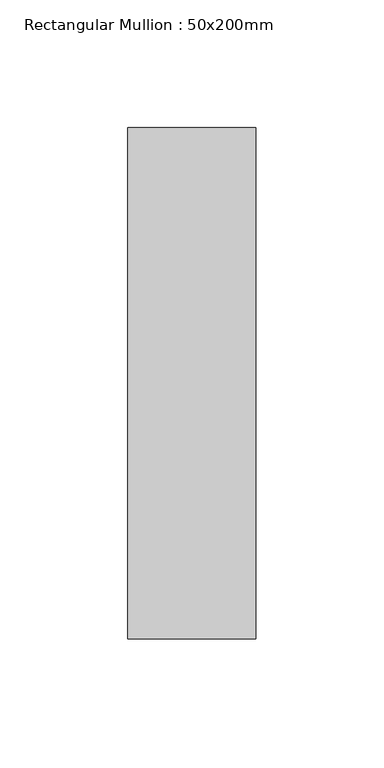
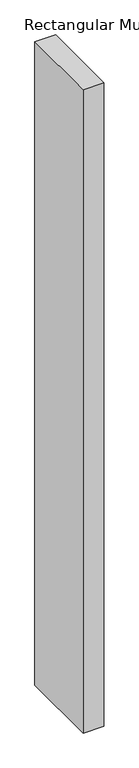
"""IFC4 building model written with IfcOpenShell, lengths in millimetres: member geometry, Rectangular Mullion : 50x200mm."""

import ifcopenshell
import ifcopenshell.guid

model = None  # the IFC model being written
_history = None  # IfcOwnerHistory: only IFC2X3 demands one
_inside = {}  # id of a spatial element -> (the spatial element, [elements in it])
_under = {}  # id of a project, library or spatial element -> (it, [spatial elements below it])
_declared = {}  # id of a project -> (the project, [libraries it declares])
_typed = {}  # id of a type object -> (the type object, [elements of that type])
_made_of = {}  # id of a material, layer set ... -> (it, [elements and type objects made of it])


def new_model(schema):
    """Start an empty IFC model of exactly this schema.

    Asked for "IFC4X3", IfcOpenShell would pick the latest addendum, in which some entities
    have other attributes; the version numbers below select the first issue.
    IFC2X3 requires an IfcOwnerHistory on every rooted entity: one is made here for all.
    """
    global model, _history
    if schema == "IFC4X3":
        model = ifcopenshell.file(schema_version=(4, 3, 0, 0))
    else:
        model = ifcopenshell.file(schema=schema)
    _inside.clear()
    _under.clear()
    _declared.clear()
    _typed.clear()
    _made_of.clear()
    _history = None
    if model.schema == "IFC2X3":
        org = make("IfcOrganization", Name="unknown")
        user = make(
            "IfcPersonAndOrganization",
            ThePerson=make("IfcPerson", FamilyName="unknown"),
            TheOrganization=org,
        )
        app = make(
            "IfcApplication",
            ApplicationDeveloper=org,
            Version="unknown",
            ApplicationFullName="unknown",
            ApplicationIdentifier="unknown",
        )
        _history = make(
            "IfcOwnerHistory",
            OwningUser=user,
            OwningApplication=app,
            ChangeAction="ADDED",
            CreationDate=0,
        )
    return model


def make(cls, **values):
    """One entity of the class cls with the attributes given. An attribute that is None is left unset."""
    return model.create_entity(
        cls, **{name: value for name, value in values.items() if value is not None}
    )


def rooted(cls, **values):
    """An entity with a GlobalId (a new one), such as an element, a storey or a relation."""
    return make(cls, GlobalId=ifcopenshell.guid.new(), OwnerHistory=_history, **values)


def si_unit(unit_type, name, prefix=None):
    """IfcSIUnit, for example si_unit("LENGTHUNIT", "METRE", prefix="MILLI")."""
    return make("IfcSIUnit", UnitType=unit_type, Prefix=prefix, Name=name)


def assignment(units):
    """IfcUnitAssignment: the units of a project."""
    return None if units is None else make("IfcUnitAssignment", Units=units)


def point(xyz):
    """IfcCartesianPoint."""
    return None if xyz is None else make("IfcCartesianPoint", Coordinates=xyz)


def direction(xyz):
    """IfcDirection."""
    return None if xyz is None else make("IfcDirection", DirectionRatios=xyz)


def frame(location, z_axis=None, x_axis=None):
    """IfcAxis2Placement3D, a coordinate frame: its origin and axes. An axis left out is left unset."""
    return make(
        "IfcAxis2Placement3D",
        Location=point(location),
        Axis=direction(z_axis),
        RefDirection=direction(x_axis),
    )


def origin():
    """The frame at (0, 0, 0) with its axes left unset."""
    return frame((0.0, 0.0, 0.0))


def place(relative_to, where):
    """IfcLocalPlacement: puts the frame where relative to a parent placement (None: the world)."""
    return make(
        "IfcLocalPlacement", PlacementRelTo=relative_to, RelativePlacement=where
    )


def context(
    kind, dimensions, precision=None, world=None, true_north=None, identifier=None
):
    """IfcGeometricRepresentationContext, for example the 3D "Model" context."""
    return make(
        "IfcGeometricRepresentationContext",
        ContextIdentifier=identifier,
        ContextType=kind,
        CoordinateSpaceDimension=dimensions,
        Precision=precision,
        WorldCoordinateSystem=world,
        TrueNorth=true_north,
    )


def project(units=None, contexts=None):
    """IfcProject with its units and contexts."""
    return rooted(
        "IfcProject",
        Name="project",
        RepresentationContexts=contexts,
        UnitsInContext=assignment(units),
    )


def spatial(cls, under=None, at=None, **own):
    """A site, building, storey or space (cls), placed at a placement, below another one or the project."""
    s = rooted(cls, ObjectPlacement=at, **own)
    if under is not None:
        _under.setdefault(under.id(), (under, []))[1].append(s)
    return s


def polyline(points):
    """IfcPolyline through the points."""
    return make("IfcPolyline", Points=[point(p) for p in points])


def outline(outer, holes=None, kind="AREA"):
    """IfcArbitraryClosedProfileDef: a profile drawn as a closed curve; with holes, ...WithVoids."""
    if holes is None:
        return make("IfcArbitraryClosedProfileDef", ProfileType=kind, OuterCurve=outer)
    return make(
        "IfcArbitraryProfileDefWithVoids",
        ProfileType=kind,
        OuterCurve=outer,
        InnerCurves=holes,
    )


def extrude(swept, where, along, depth):
    """IfcExtrudedAreaSolid: the profile swept, set in the frame where, extruded along a direction by depth."""
    return make(
        "IfcExtrudedAreaSolid",
        SweptArea=swept,
        Position=where,
        ExtrudedDirection=direction(along),
        Depth=depth,
    )


def shape(context_of_items, identifier, shape_type, items):
    """IfcShapeRepresentation: the items that make up one representation, for example the "Body"."""
    return make(
        "IfcShapeRepresentation",
        ContextOfItems=context_of_items,
        RepresentationIdentifier=identifier,
        RepresentationType=shape_type,
        Items=items,
    )


def source(mapping_origin, context_of_items, identifier, shape_type, items):
    """IfcRepresentationMap: a shape defined once, which mapped items show again and again."""
    return make(
        "IfcRepresentationMap",
        MappingOrigin=mapping_origin,
        MappedRepresentation=shape(context_of_items, identifier, shape_type, items),
    )


def transform(
    local_origin,
    x_axis=None,
    y_axis=None,
    z_axis=None,
    scale=None,
    scale2=None,
    scale3=None,
    uniform=True,
):
    """IfcCartesianTransformationOperator3D, or its non-uniform kind. x_axis, y_axis, z_axis: its Axis1, 2, 3."""
    if uniform:
        return make(
            "IfcCartesianTransformationOperator3D",
            Axis1=direction(x_axis),
            Axis2=direction(y_axis),
            LocalOrigin=point(local_origin),
            Scale=scale,
            Axis3=direction(z_axis),
        )
    return make(
        "IfcCartesianTransformationOperator3DnonUniform",
        Axis1=direction(x_axis),
        Axis2=direction(y_axis),
        LocalOrigin=point(local_origin),
        Scale=scale,
        Axis3=direction(z_axis),
        Scale2=scale2,
        Scale3=scale3,
    )


def mapped(mapping_source, mapping_target):
    """IfcMappedItem: shows the shape of a source again, moved by a transform."""
    return make(
        "IfcMappedItem", MappingSource=mapping_source, MappingTarget=mapping_target
    )


def made_of(thing, what):
    """Note that an element or type object is made of a material, layer set ...; save() writes the relation."""
    if what is not None:
        _made_of.setdefault(what.id(), (what, []))[1].append(thing)
    return thing


def element(
    cls,
    number,
    at=None,
    inside=None,
    cuts=None,
    type_object=None,
    material=None,
    context=None,
    identifier="Body",
    shape_type=None,
    held_by="IfcProductDefinitionShape",
    body=None,
    shapes=None,
    **own,
):
    """One element of the class cls, such as IfcWall. Its Tag is "e" and its number.

    at: its placement. inside: the storey or other place that contains it. cuts: it is an
    opening in that element (IfcRelVoidsElement). A single representation is given by context,
    identifier, shape_type and body (its items); several are given by shapes. held_by: the class
    of the entity that holds the representations. save() writes the other relations.
    """
    e = rooted(cls, Tag="e%d" % number, ObjectPlacement=at, **own)
    if body is not None:
        shapes = [shape(context, identifier, shape_type, body)]
    if shapes is not None:
        e.Representation = make(held_by, Representations=shapes)
    if inside is not None:
        _inside.setdefault(inside.id(), (inside, []))[1].append(e)
    if cuts is not None:
        rooted(
            "IfcRelVoidsElement", RelatingBuildingElement=cuts, RelatedOpeningElement=e
        )
    if type_object is not None:
        _typed.setdefault(type_object.id(), (type_object, []))[1].append(e)
    return made_of(e, material)


def aggregate(whole, parts):
    """IfcRelAggregates: a whole, such as a stair, and the parts it consists of."""
    return rooted("IfcRelAggregates", RelatingObject=whole, RelatedObjects=parts)


def save(model, path):
    """Write the relations noted so far, then the file.

    IfcRelAggregates (storeys below a building ...), IfcRelContainedInSpatialStructure (elements
    in a storey), IfcRelDefinesByType, IfcRelAssociatesMaterial and IfcRelDeclares: one each for
    every whole, place, type object, material and project.
    """
    for whole, parts in _under.values():
        aggregate(whole, parts)
    for where, things in _inside.values():
        rooted(
            "IfcRelContainedInSpatialStructure",
            RelatedElements=things,
            RelatingStructure=where,
        )
    for kind, things in _typed.values():
        rooted("IfcRelDefinesByType", RelatedObjects=things, RelatingType=kind)
    for what, things in _made_of.values():
        rooted("IfcRelAssociatesMaterial", RelatedObjects=things, RelatingMaterial=what)
    for by, libraries in _declared.values():
        rooted("IfcRelDeclares", RelatingContext=by, RelatedDefinitions=libraries)
    model.write(path)


def rectangular_mullion_50x200mm_a9f5770a(model_context):
    return source(origin(), model_context, "Body", "SweptSolid", [
        extrude(outline(polyline([(25.0, 100.0), (25.0, -100.0), (-25.0, -100.0), (-25.0, 100.0), (25.0, 100.0)])), frame((0.0, 0.0, -1633.172439), z_axis=(0.0, 0.0, 1.0), x_axis=(1.0, 0.0, 0.0)), (0.0, 0.0, 1.0), 1633.172439),
    ])


if __name__ == "__main__":
    model = new_model("IFC4")
    model_context = context("Model", 3, world=origin())
    ifc_project = project(units=[si_unit("LENGTHUNIT", "METRE", prefix="MILLI")], contexts=[model_context])
    site = spatial("IfcSite", under=ifc_project)
    building = spatial("IfcBuilding", under=site)
    placement = place(None, origin())
    rectangular_mullion_50x200mm_shape = rectangular_mullion_50x200mm_a9f5770a(model_context)
    element("IfcMember", 1, ObjectType="Rectangular Mullion : 50x200mm", at=placement, inside=building, context=model_context, shape_type="MappedRepresentation", body=[
        mapped(rectangular_mullion_50x200mm_shape, transform((0.0, 0.0, 0.0), x_axis=(1.0, 0.0, 0.0), y_axis=(0.0, 1.0, 0.0), z_axis=(0.0, 0.0, 1.0))),
    ])
    save(model, "model.ifc")
